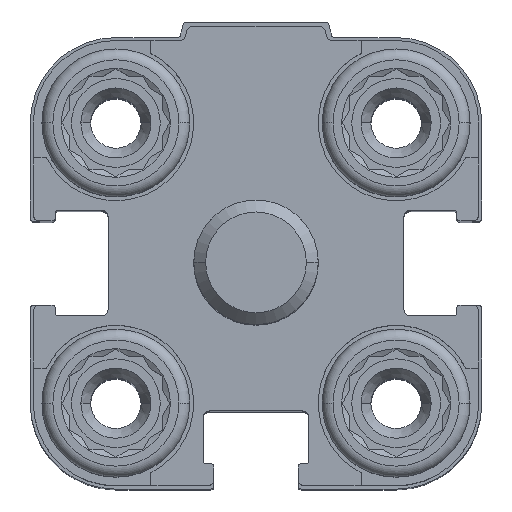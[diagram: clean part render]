
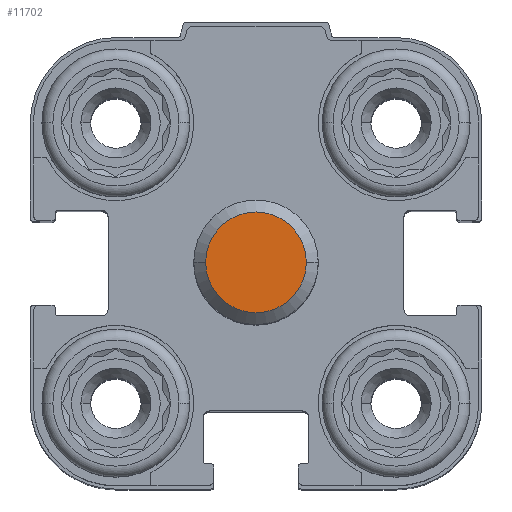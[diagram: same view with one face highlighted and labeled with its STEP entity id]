
A CAD part, top view. The second image highlights one B-rep face of the part: STEP entity #11702.
In plain terms, the highlighted planar face has unit normal (0, 0, 1).
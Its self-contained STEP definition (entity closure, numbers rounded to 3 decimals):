
#366 = CARTESIAN_POINT ( 'NONE',  ( 0., 0., 24.5 ) ) ;
#1426 = CARTESIAN_POINT ( 'NONE',  ( 3.233, 0., 24.5 ) ) ;
#2112 = VERTEX_POINT ( 'NONE', #17718 ) ;
#3186 = AXIS2_PLACEMENT_3D ( 'NONE', #366, #9817, #16792 ) ;
#3798 = ORIENTED_EDGE ( 'NONE', *, *, #12993, .F. ) ;
#4078 = DIRECTION ( 'NONE',  ( 0., 1., 0. ) ) ;
#4445 = EDGE_CURVE ( 'NONE', #10511, #2112, #6361, .T. ) ;
#6361 = CIRCLE ( 'NONE', #3186, 3.233 ) ;
#6629 = AXIS2_PLACEMENT_3D ( 'NONE', #16659, #16400, #4078 ) ;
#6963 = PLANE ( 'NONE',  #6629 ) ;
#7828 = CIRCLE ( 'NONE', #8409, 3.233 ) ;
#8409 = AXIS2_PLACEMENT_3D ( 'NONE', #9922, #8490, #12443 ) ;
#8490 = DIRECTION ( 'NONE',  ( 0., 0., -1. ) ) ;
#9817 = DIRECTION ( 'NONE',  ( 0., 0., -1. ) ) ;
#9832 = ORIENTED_EDGE ( 'NONE', *, *, #4445, .F. ) ;
#9922 = CARTESIAN_POINT ( 'NONE',  ( 0., 0., 24.5 ) ) ;
#10511 = VERTEX_POINT ( 'NONE', #1426 ) ;
#10928 = FACE_OUTER_BOUND ( 'NONE', #11627, .T. ) ;
#11627 = EDGE_LOOP ( 'NONE', ( #3798, #9832 ) ) ;
#11702 = ADVANCED_FACE ( 'NONE', ( #10928 ), #6963, .F. ) ;
#12443 = DIRECTION ( 'NONE',  ( -1., 0., 0. ) ) ;
#12993 = EDGE_CURVE ( 'NONE', #2112, #10511, #7828, .T. ) ;
#16400 = DIRECTION ( 'NONE',  ( 0., 0., -1. ) ) ;
#16659 = CARTESIAN_POINT ( 'NONE',  ( 0., 0., 24.5 ) ) ;
#16792 = DIRECTION ( 'NONE',  ( -1., 0., 0. ) ) ;
#17718 = CARTESIAN_POINT ( 'NONE',  ( -3.233, 0., 24.5 ) ) ;
